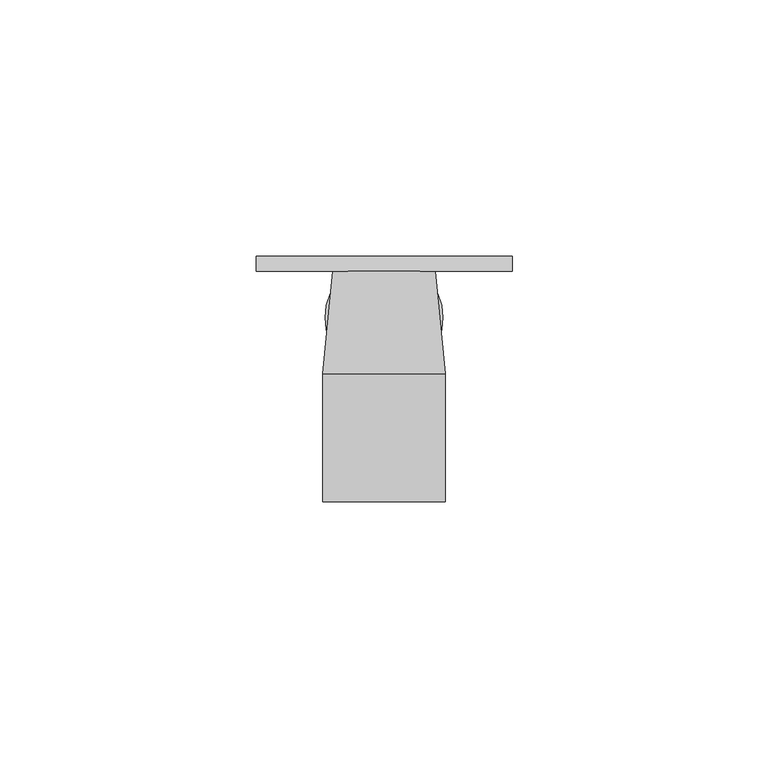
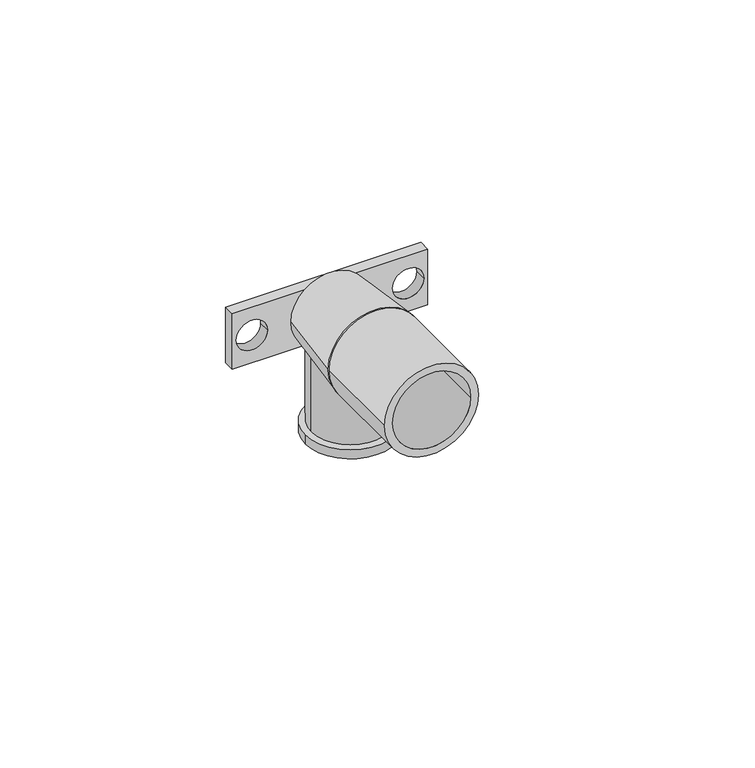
"""IFC4 building model written with IfcOpenShell, lengths in millimetres: pipe fitting geometry, БИР ПЕКС_НПР_Водорозетка : Водорозетка 3/4''x20."""

from ifc_helpers import new_model, si_unit, point, frame, frame_2d, origin, origin_2d, place, context, project, spatial, polyline, circle_curve, trimmed, segment, composite_curve, outline, extrude, source, transform, mapped, element, save
from ifc_brep_helpers import plane_surface, revolved_surface, advanced_brep


def pipe_fitting_c3a09f15(model_context):
    return source(origin(), model_context, "Body", "SolidModel", [
        advanced_brep(
        [(-10.0, -3.0, 0.0), (10.0, -3.0, 0.0), (-12.0, -23.0, 0.0), (12.0, -23.0, 0.0)],
        [
            (0, 1, circle_curve(frame((0.0, -3.0, 0.0), z_axis=(0.0, 1.0, 0.0), x_axis=(-1.0, 0.0, 0.0)), 10.0)),
            (1, 0, circle_curve(frame((0.0, -3.0, 0.0), z_axis=(0.0, 1.0, 0.0), x_axis=(1.0, 0.0, 0.0)), 10.0)),
            (2, 3, circle_curve(frame((0.0, -23.0, 0.0), z_axis=(0.0, -1.0, 0.0), x_axis=(1.0, 0.0, 0.0)), 12.0)),
            (3, 2, circle_curve(frame((0.0, -23.0, 0.0), z_axis=(0.0, -1.0, 0.0), x_axis=(-1.0, 0.0, 0.0)), 12.0)),
            (2, 0),
            (1, 3),
        ],
        [
            plane_surface(frame((0.0, -3.0, 0.0), z_axis=(0.0, 1.0, 0.0), x_axis=(0.0, 0.0, -1.0))),
            plane_surface(frame((0.0, -23.0, 0.0), z_axis=(0.0, -1.0, 0.0), x_axis=(0.0, 0.0, -1.0))),
            revolved_surface(polyline([(10.0, -3.0, 0.0), (12.0, -23.0, 0.0)]), (0.0, 97.0, 0.0), (0.0, -1.0, 0.0)),
            revolved_surface(polyline([(-10.0, -3.0, 0.0), (-12.0, -23.0, 0.0)]), (0.0, 97.0, 0.0), (0.0, -1.0, 0.0)),
        ],
        [
            (0, [[1, 2]]),
            (1, [[3, 4]]),
            (2, [[-3, 5, -2, 6]]),
            (3, [[-4, -6, -1, -5]]),
        ],
    ),
        extrude(outline(composite_curve([segment(trimmed(circle_curve(origin_2d(), 12.0), [point((0.0, -12.0))], [point((0.0, 12.0))], False, "CARTESIAN"), True, "CONTINUOUS"), segment(trimmed(circle_curve(origin_2d(), 12.0), [point((0.0, 12.0))], [point((0.0, -12.0))], False, "CARTESIAN"), True, "CONTINUOUS")], self_intersect=False), holes=[composite_curve([segment(trimmed(circle_curve(origin_2d(), 10.0), [point((0.0, -10.0))], [point((0.0, 10.0))], True, "CARTESIAN"), True, "CONTINUOUS"), segment(trimmed(circle_curve(origin_2d(), 10.0), [point((0.0, 10.0))], [point((0.0, -10.0))], True, "CARTESIAN"), True, "CONTINUOUS")], self_intersect=False)]), frame((0.0, -48.0, 0.0), z_axis=(0.0, 1.0, 0.0), x_axis=(0.0, 0.0, 1.0)), (0.0, 0.0, 1.0), 25.0),
        extrude(outline(composite_curve([segment(trimmed(circle_curve(frame_2d((0.0, -12.0)), 11.5), [point((-11.5, -12.0))], [point((11.5, -12.0))], False, "CARTESIAN"), True, "CONTINUOUS"), segment(trimmed(circle_curve(frame_2d((0.0, -12.0)), 11.5), [point((11.5, -12.0))], [point((-11.5, -12.0))], False, "CARTESIAN"), True, "CONTINUOUS")], self_intersect=False), holes=[composite_curve([segment(trimmed(circle_curve(frame_2d((0.0, -12.0)), 8.5), [point((-8.5, -12.0))], [point((8.5, -12.0))], True, "CARTESIAN"), True, "CONTINUOUS"), segment(trimmed(circle_curve(frame_2d((0.0, -12.0)), 8.5), [point((8.5, -12.0))], [point((-8.5, -12.0))], True, "CARTESIAN"), True, "CONTINUOUS")], self_intersect=False)]), frame((0.0, 0.0, -27.0), z_axis=(0.0, 0.0, 1.0), x_axis=(1.0, 0.0, 0.0)), (0.0, 0.0, 1.0), 2.5),
        extrude(outline(composite_curve([segment(trimmed(circle_curve(frame_2d((0.0, -12.0)), 10.0), [point((-10.0, -12.0))], [point((10.0, -12.0))], False, "CARTESIAN"), True, "CONTINUOUS"), segment(trimmed(circle_curve(frame_2d((0.0, -12.0)), 10.0), [point((10.0, -12.0))], [point((-10.0, -12.0))], False, "CARTESIAN"), True, "CONTINUOUS")], self_intersect=False), holes=[composite_curve([segment(trimmed(circle_curve(frame_2d((0.0, -12.0)), 8.5), [point((-8.5, -12.0))], [point((8.5, -12.0))], True, "CARTESIAN"), True, "CONTINUOUS"), segment(trimmed(circle_curve(frame_2d((0.0, -12.0)), 8.5), [point((8.5, -12.0))], [point((-8.5, -12.0))], True, "CARTESIAN"), True, "CONTINUOUS")], self_intersect=False)]), frame((0.0, 0.0, -27.0), z_axis=(0.0, 0.0, 1.0), x_axis=(1.0, 0.0, 0.0)), (0.0, 0.0, 1.0), 27.0),
        extrude(outline(polyline([(7.5, 25.0), (7.5, -25.0), (-7.5, -25.0), (-7.5, 25.0), (7.5, 25.0)]), holes=[composite_curve([segment(trimmed(circle_curve(frame_2d((0.0, -20.0)), 4.0), [point((0.0, -24.0))], [point((0.0, -16.0))], True, "CARTESIAN"), True, "CONTINUOUS"), segment(trimmed(circle_curve(frame_2d((0.0, -20.0)), 4.0), [point((0.0, -16.0))], [point((0.0, -24.0))], True, "CARTESIAN"), True, "CONTINUOUS")], self_intersect=False), composite_curve([segment(trimmed(circle_curve(frame_2d((0.0, 20.0)), 4.0), [point((0.0, 16.0))], [point((0.0, 24.0))], True, "CARTESIAN"), True, "CONTINUOUS"), segment(trimmed(circle_curve(frame_2d((0.0, 20.0)), 4.0), [point((0.0, 24.0))], [point((0.0, 16.0))], True, "CARTESIAN"), True, "CONTINUOUS")], self_intersect=False)]), frame((0.0, -3.0, 0.0), z_axis=(0.0, 1.0, 0.0), x_axis=(0.0, 0.0, 1.0)), (0.0, 0.0, 1.0), 3.0),
    ])


if __name__ == "__main__":
    model = new_model("IFC4")
    model_context = context("Model", 3, world=origin())
    ifc_project = project(units=[si_unit("LENGTHUNIT", "METRE", prefix="MILLI")], contexts=[model_context])
    site = spatial("IfcSite", under=ifc_project)
    building = spatial("IfcBuilding", under=site)
    placement = place(None, origin())
    pipe_fitting_shape = pipe_fitting_c3a09f15(model_context)
    element("IfcPipeFitting", 1, ObjectType="БИР ПЕКС_НПР_Водорозетка : Водорозетка 3/4''x20", at=placement, inside=building, context=model_context, shape_type="MappedRepresentation", body=[
        mapped(pipe_fitting_shape, transform((0.0, 0.0, 0.0), x_axis=(1.0, 0.0, 0.0), y_axis=(0.0, 1.0, 0.0), z_axis=(0.0, 0.0, 1.0))),
    ])
    save(model, "model.ifc")
